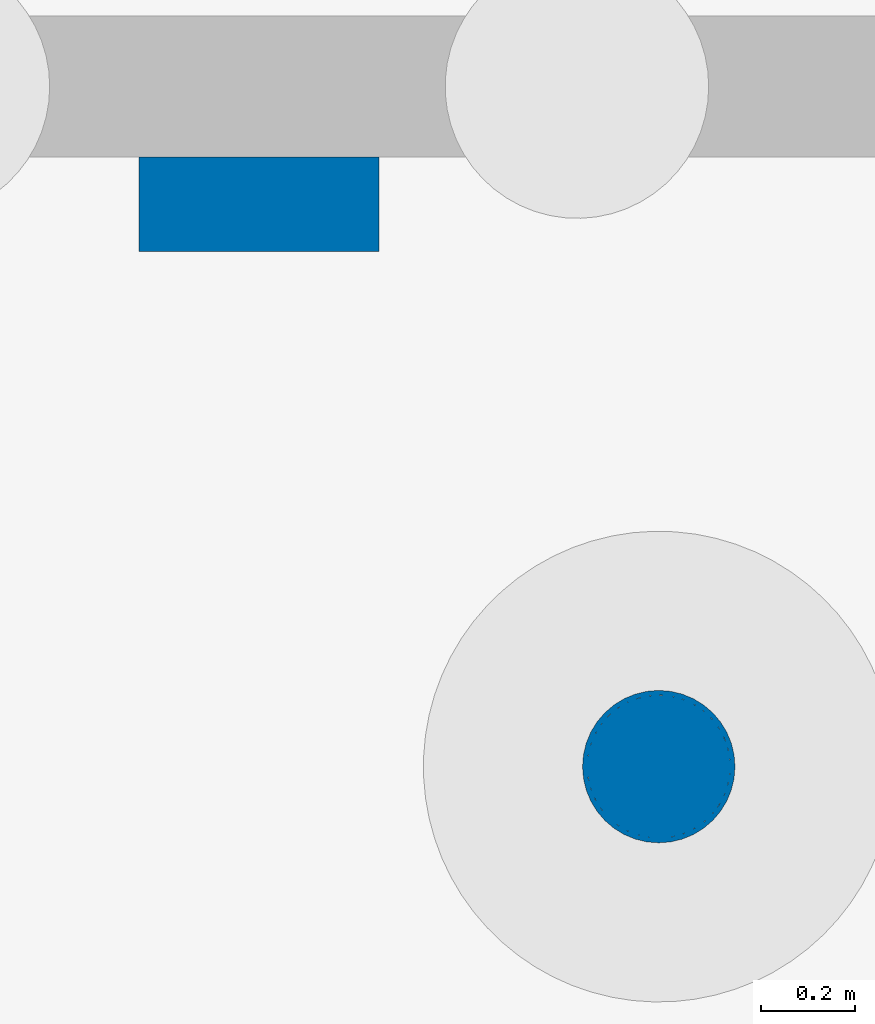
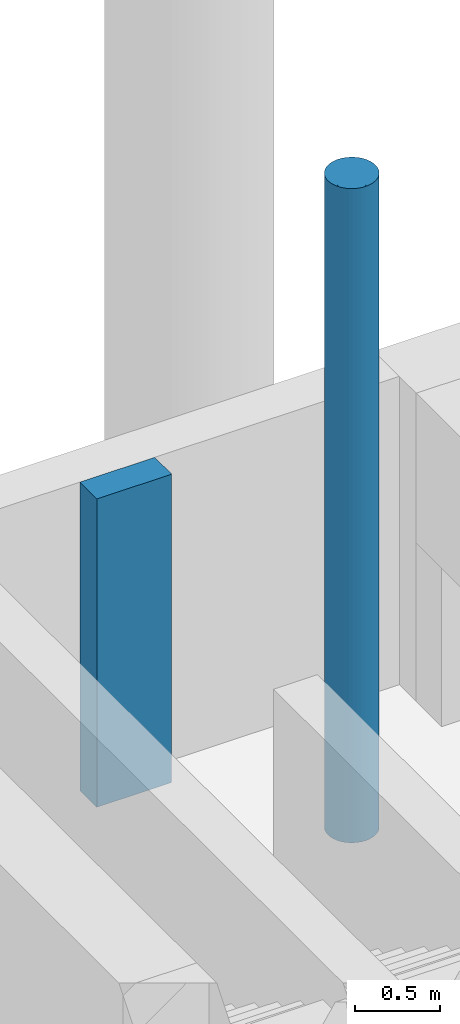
# One storey, part 10 of 104: 2 columns.
"""IFC2X3 building model written with IfcOpenShell, lengths in millimetres."""

from ifc_helpers import new_model, entity, si_unit, converted_unit, derived_unit, direction, frame, frame_2d, origin, place, context, subcontext, project, spatial, rectangle, circle, hollow_circle, extrude, source, transform, mapped, material, material_list, type_object, type_shapes, element, save


model = new_model("IFC2X3")

# Units and contexts
model_context = context("Model", 3, precision=0.01, world=origin(), true_north=direction((6.12303176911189e-17, 1.0)))
body_context = subcontext(model_context, "Body", "Model", "MODEL_VIEW")
ifc_project = project(units=[si_unit("LENGTHUNIT", "METRE", prefix="MILLI"), si_unit("AREAUNIT", "SQUARE_METRE", prefix="MILLI"), si_unit("VOLUMEUNIT", "CUBIC_METRE"), converted_unit("PLANEANGLEUNIT", "DEGREE", entity("IfcRatioMeasure", 0.0174532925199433), si_unit("PLANEANGLEUNIT", "RADIAN"), dimensions=[0, 0, 0, 0, 0, 0, 0]), si_unit("MASSUNIT", "GRAM", prefix="KILO"), derived_unit("MASSDENSITYUNIT", [(si_unit("MASSUNIT", "GRAM", prefix="KILO"), 1), (si_unit("LENGTHUNIT", "METRE"), -3)]), derived_unit("MOMENTOFINERTIAUNIT", [(si_unit("LENGTHUNIT", "METRE"), 4)]), si_unit("TIMEUNIT", "SECOND"), si_unit("FREQUENCYUNIT", "HERTZ"), si_unit("THERMODYNAMICTEMPERATUREUNIT", "DEGREE_CELSIUS"), derived_unit("THERMALTRANSMITTANCEUNIT", [(si_unit("MASSUNIT", "GRAM", prefix="KILO"), 1), (si_unit("THERMODYNAMICTEMPERATUREUNIT", "KELVIN"), -1), (si_unit("TIMEUNIT", "SECOND"), -3)]), derived_unit("VOLUMETRICFLOWRATEUNIT", [(si_unit("LENGTHUNIT", "METRE"), 3), (si_unit("TIMEUNIT", "SECOND"), -1)]), si_unit("ELECTRICCURRENTUNIT", "AMPERE"), si_unit("ELECTRICVOLTAGEUNIT", "VOLT"), si_unit("POWERUNIT", "WATT"), si_unit("FORCEUNIT", "NEWTON", prefix="KILO"), si_unit("ILLUMINANCEUNIT", "LUX"), si_unit("LUMINOUSFLUXUNIT", "LUMEN"), si_unit("LUMINOUSINTENSITYUNIT", "CANDELA"), derived_unit("USERDEFINED", [(si_unit("MASSUNIT", "GRAM", prefix="KILO"), -1), (si_unit("LENGTHUNIT", "METRE"), -2), (si_unit("TIMEUNIT", "SECOND"), 3), (si_unit("LUMINOUSFLUXUNIT", "LUMEN"), 1)]), derived_unit("LINEARVELOCITYUNIT", [(si_unit("LENGTHUNIT", "METRE"), 1), (si_unit("TIMEUNIT", "SECOND"), -1)]), si_unit("PRESSUREUNIT", "PASCAL"), derived_unit("USERDEFINED", [(si_unit("LENGTHUNIT", "METRE"), -2), (si_unit("MASSUNIT", "GRAM", prefix="KILO"), 1), (si_unit("TIMEUNIT", "SECOND"), -2)]), derived_unit("LINEARFORCEUNIT", [(si_unit("MASSUNIT", "GRAM", prefix="KILO"), 1), (si_unit("LENGTHUNIT", "METRE"), 1), (si_unit("TIMEUNIT", "SECOND"), -2), (si_unit("LENGTHUNIT", "METRE"), -1)]), derived_unit("PLANARFORCEUNIT", [(si_unit("MASSUNIT", "GRAM", prefix="KILO"), 1), (si_unit("LENGTHUNIT", "METRE"), 1), (si_unit("TIMEUNIT", "SECOND"), -2), (si_unit("LENGTHUNIT", "METRE"), -2)])], contexts=[model_context])

# Site, building, storey
site_placement = place(None, origin())
site = spatial("IfcSite", under=ifc_project, at=site_placement, Name="Theater aan de Parade", CompositionType="ELEMENT")
building_placement = place(site_placement, origin())
building = spatial("IfcBuilding", under=site, at=building_placement, Name="Theater aan de Parade", CompositionType="ELEMENT")
storey_placement = place(building_placement, frame((0.0, 0.0, -5520.0)))
storey = spatial("IfcBuildingStorey", under=building, at=storey_placement, Name="-2 kelder", CompositionType="ELEMENT", Elevation=-5520.0)

# Columns
ifc_material_1 = material(Name="00_PBT_MAT_beton t.p.g.")
column_type_1 = type_object("IfcColumnType", Name="16_PBT_SC_beton_rechthoekig:510x500_bestaand", PredefinedType="COLUMN", material=ifc_material_1)
shared_shape_1 = source(origin(), body_context, "Body", "SweptSolid", [
    extrude(rectangle(XDim=200.000000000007, YDim=510.000000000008, at=frame_2d((0.0, -2.1600499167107e-12), x_axis=(1.0, 0.0))), frame((14355.0, 43300.0, -5560.0), z_axis=(0.0, 0.0, 1.0), x_axis=(0.0, -1.0, 0.0)), (0.0, 0.0, 1.0), 2220.0),
])
type_shapes(column_type_1, [shared_shape_1])
column_1_placement = place(storey_placement, frame((0.0, 0.0, 5520.0)))
element("IfcColumn", 1, at=column_1_placement, inside=storey, type_object=column_type_1, material=ifc_material_1, Name="16_PBT_SC_beton_rechthoekig:510x500_bestaand", ObjectType="16_PBT_SC_beton_rechthoekig:510x500_bestaand", context=body_context, shape_type="MappedRepresentation", body=[
    mapped(shared_shape_1, transform((0.0, 0.0, 0.0), scale=1.0)),
])
ifc_material_2 = material(Name="00_PBT_MAT_staal_S355")
ifc_material_3 = material(Name="00_PBT_MAT_beton t.p.g._C40/50")
ifc_material_list_1 = material_list([ifc_material_2, ifc_material_3])
ifc_material_list_2 = material_list([ifc_material_2, ifc_material_3])
column_type_2 = type_object("IfcColumnType", Name="28_PBT_SC_staal_buis:S355_B323.9x10_GB_C40/50", PredefinedType="COLUMN", material=ifc_material_list_2)
shared_shape_2 = source(origin(), body_context, "Body", "SweptSolid", [
    extrude(hollow_circle(Radius=161.95, WallThickness=9.99999999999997, at=frame_2d((1.77837538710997e-15, -2.97621380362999e-13), x_axis=(1.0, 0.0))), frame((0.0, 0.0, -5425.0), z_axis=(0.0, 0.0, 1.0), x_axis=(-1.0, 0.0, 0.0)), (0.0, 0.0, 1.0), 4710.00000000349),
    extrude(circle(Radius=151.95, at=frame_2d((-6.17986865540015e-15, 1.29141200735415e-12), x_axis=(1.0, 0.0))), frame((0.0, 0.0, -5425.0)), (0.0, 0.0, 1.0), 4710.00000000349),
])
type_shapes(column_type_2, [shared_shape_2])
column_2_placement = place(storey_placement, frame((15203.8570025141, 42105.1913491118, 5520.0)))
element("IfcColumn", 2, at=column_2_placement, inside=storey, type_object=column_type_2, material=ifc_material_list_1, Name="28_PBT_SC_staal_buis:S355_B323.9x10_GB_C40/50", ObjectType="28_PBT_SC_staal_buis:S355_B323.9x10_GB_C40/50", context=body_context, shape_type="MappedRepresentation", body=[
    mapped(shared_shape_2, transform((0.0, 0.0, 0.0), scale=1.0)),
])

save(model, "model.ifc")
